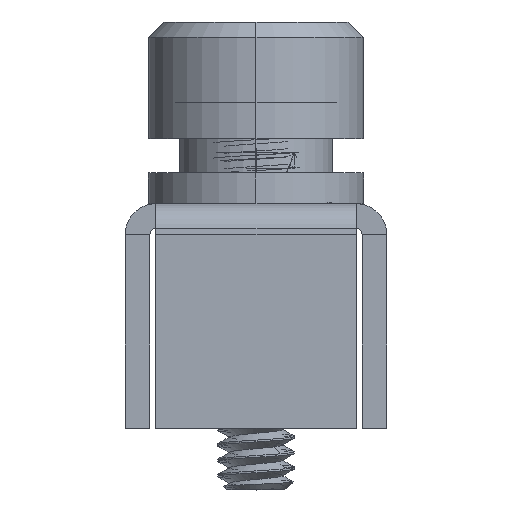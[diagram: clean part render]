
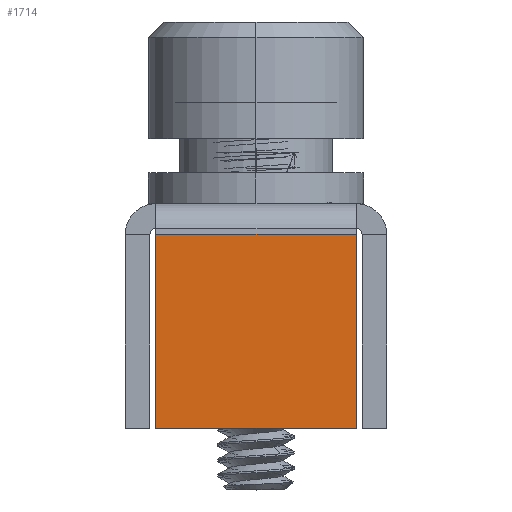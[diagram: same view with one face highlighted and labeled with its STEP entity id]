
A CAD part, left-side view. The second image highlights one B-rep face of the part: STEP entity #1714.
In plain terms, the highlighted planar face has unit normal (-1, 0, 0).
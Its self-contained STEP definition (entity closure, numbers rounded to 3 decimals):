
#345=DIRECTION('',(0.,0.,1.));
#346=VECTOR('',#345,6.3);
#347=CARTESIAN_POINT('',(-197.5,159.,-6.5));
#348=LINE('',#347,#346);
#349=DIRECTION('',(0.,-1.,0.));
#350=VECTOR('',#349,6.5);
#351=CARTESIAN_POINT('',(-197.5,165.5,-6.5));
#352=LINE('',#351,#350);
#353=DIRECTION('',(0.,0.,-1.));
#354=VECTOR('',#353,6.3);
#355=CARTESIAN_POINT('',(-197.5,165.5,-0.2));
#356=LINE('',#355,#354);
#371=DIRECTION('',(0.,1.,0.));
#372=VECTOR('',#371,6.5);
#373=CARTESIAN_POINT('',(-197.5,159.,-0.2));
#374=LINE('',#373,#372);
#1059=CARTESIAN_POINT('',(-197.5,165.5,-0.2));
#1060=CARTESIAN_POINT('',(-197.5,165.5,-6.5));
#1061=VERTEX_POINT('',#1059);
#1062=VERTEX_POINT('',#1060);
#1063=CARTESIAN_POINT('',(-197.5,159.,-6.5));
#1064=VERTEX_POINT('',#1063);
#1065=CARTESIAN_POINT('',(-197.5,159.,-0.2));
#1066=VERTEX_POINT('',#1065);
#1700=CARTESIAN_POINT('',(-197.5,165.5,0.8));
#1701=DIRECTION('',(-1.,0.,0.));
#1702=DIRECTION('',(0.,1.,0.));
#1703=AXIS2_PLACEMENT_3D('',#1700,#1701,#1702);
#1704=PLANE('',#1703);
#1706=ORIENTED_EDGE('',*,*,#1705,.F.);
#1707=ORIENTED_EDGE('',*,*,#1690,.F.);
#1709=ORIENTED_EDGE('',*,*,#1708,.F.);
#1711=ORIENTED_EDGE('',*,*,#1710,.F.);
#1712=EDGE_LOOP('',(#1706,#1707,#1709,#1711));
#1713=FACE_OUTER_BOUND('',#1712,.F.);
#1690=EDGE_CURVE('',#1064,#1066,#348,.T.);
#1705=EDGE_CURVE('',#1066,#1061,#374,.T.);
#1708=EDGE_CURVE('',#1062,#1064,#352,.T.);
#1710=EDGE_CURVE('',#1061,#1062,#356,.T.);
#1714=ADVANCED_FACE('',(#1713),#1704,.T.);
